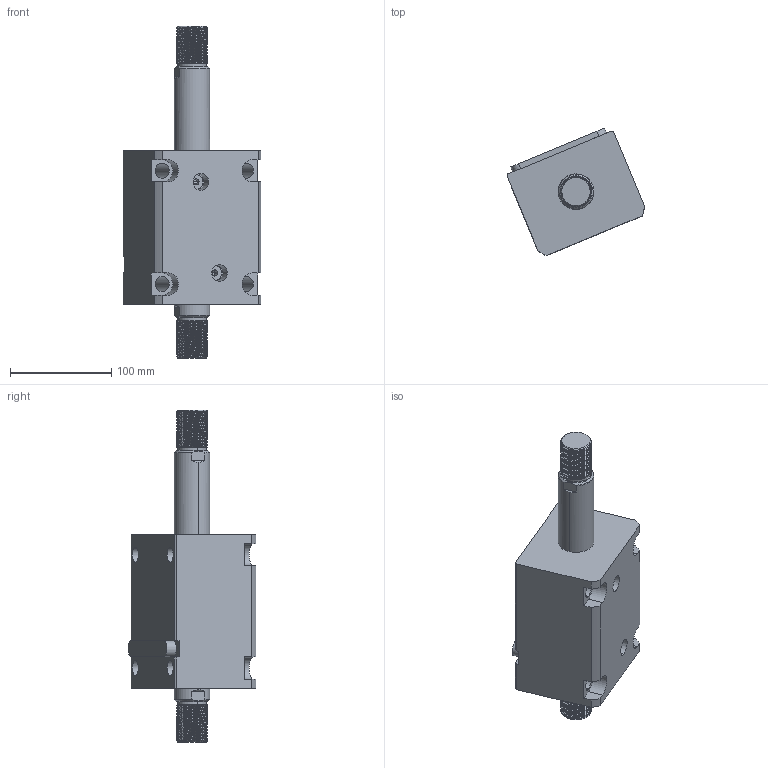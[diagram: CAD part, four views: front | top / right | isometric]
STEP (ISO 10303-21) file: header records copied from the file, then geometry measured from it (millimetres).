
FILE_DESCRIPTION (( 'STEP AP214' ), '1' );
FILE_NAME ('chtb-lw63x70w_asm.STEP', '2018-05-18T08:54:38', ( 'Windows' ), ( 'Microsoft' ), 'SwSTEP 2.0', 'SolidWorks 2015', '' );
FILE_SCHEMA (( 'AUTOMOTIVE_DESIGN' ));
Length unit declared in the file: millimetre
Products named in the file (5): CHTB-SW63X70WHSG; CHTB-LW63X70NBT; CHTB-LA63PJ; CHTB-63QG; chtb-lw63x70w_asm
Assembly tree (4 placements, depth 2):
  chtb-lw63x70w_asm
    CHTB-63QG
    CHTB-LA63PJ
    CHTB-LW63X70NBT
    CHTB-SW63X70WHSG
Bounding box: 135.77 x 126.06 x 328 mm (x, y, z)
Volume: 1455094.5 mm3; surface area: 197165.5 mm2
Topology: 4 solids, 4 shells, 306 faces, 889 edges, 601 vertices
Faces by surface type: cylinder 204, plane 58, bspline 16, cone 16, torus 12
Entity records: 27878 total; most frequent: CARTESIAN_POINT 20531, ORIENTED_EDGE 1770, DIRECTION 1228, EDGE_CURVE 885, VERTEX_POINT 601, AXIS2_PLACEMENT_3D 458, EDGE_LOOP 336, VECTOR 312
